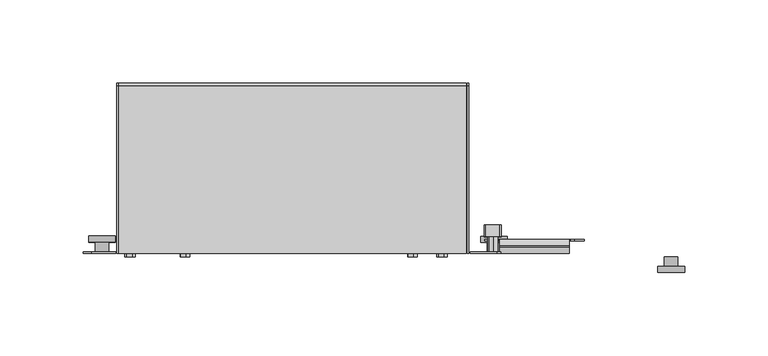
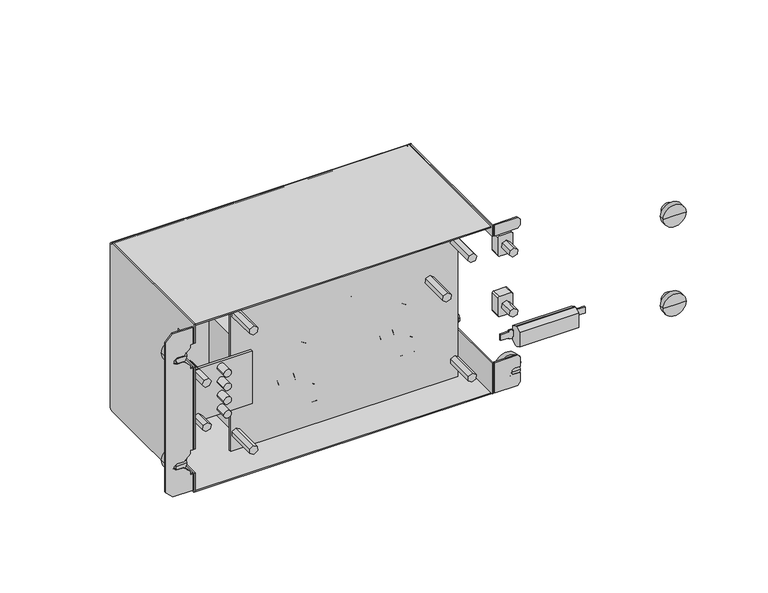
"""IFC4 building model written with IfcOpenShell, lengths in millimetres: proxy geometry, AES 48V 3A F3U : AES 48V 3A F3U."""

from ifc_helpers import new_model, si_unit, point, frame, frame_2d, origin, place, context, project, spatial, polyline, circle_curve, ellipse_curve, trimmed, segment, composite_curve, outline, extrude, source, transform, mapped, element, save
from ifc_brep_helpers import plane_surface, cylinder_surface, revolved_surface, advanced_brep


def electrical_equipment_b192b03c(model_context):
    return source(origin(), model_context, "Body", "SolidModel", [
        extrude(outline(composite_curve([segment(trimmed(circle_curve(frame_2d((-19.9503152, -251.0972025)), 2.4913007), [point((-19.9503152, -248.6059018))], [point((-19.9503152, -253.5885032))], False, "CARTESIAN"), True, "CONTINUOUS"), segment(trimmed(circle_curve(frame_2d((-19.9503152, -251.0972025)), 2.4913007), [point((-19.9503152, -253.5885032))], [point((-19.9503152, -248.6059018))], False, "CARTESIAN"), True, "CONTINUOUS")], self_intersect=False)), frame((0.0, 23.6, 0.0), z_axis=(0.0, 1.0, 0.0), x_axis=(0.0, 0.0, 1.0)), (0.0, 0.0, 1.0), 3.976673),
        extrude(outline(composite_curve([segment(trimmed(circle_curve(frame_2d((15.2361824, -367.226074)), 2.6472279), [point((15.2361824, -369.873302))], [point((15.2361824, -364.5788461))], False, "CARTESIAN"), True, "CONTINUOUS"), segment(trimmed(circle_curve(frame_2d((15.2361824, -367.226074)), 2.6472279), [point((15.2361824, -364.5788461))], [point((15.2361824, -369.873302))], False, "CARTESIAN"), True, "CONTINUOUS")], self_intersect=False)), frame((0.0, 4.0940381, 0.0), z_axis=(0.0, 1.0, 0.0), x_axis=(0.0, 0.0, 1.0)), (0.0, 0.0, 1.0), 7.9059619),
        extrude(outline(composite_curve([segment(trimmed(circle_curve(frame_2d((5.0408699, -367.226074)), 2.6472279), [point((5.0408699, -369.873302))], [point((5.0408699, -364.5788461))], False, "CARTESIAN"), True, "CONTINUOUS"), segment(trimmed(circle_curve(frame_2d((5.0408699, -367.226074)), 2.6472279), [point((5.0408699, -364.5788461))], [point((5.0408699, -369.873302))], False, "CARTESIAN"), True, "CONTINUOUS")], self_intersect=False)), frame((0.0, 4.0940381, 0.0), z_axis=(0.0, 1.0, 0.0), x_axis=(0.0, 0.0, 1.0)), (0.0, 0.0, 1.0), 7.9059619),
        extrude(outline(composite_curve([segment(trimmed(circle_curve(frame_2d((-5.1544426, -367.226074)), 2.6472279), [point((-5.1544426, -369.873302))], [point((-5.1544426, -364.5788461))], False, "CARTESIAN"), True, "CONTINUOUS"), segment(trimmed(circle_curve(frame_2d((-5.1544426, -367.226074)), 2.6472279), [point((-5.1544426, -364.5788461))], [point((-5.1544426, -369.873302))], False, "CARTESIAN"), True, "CONTINUOUS")], self_intersect=False)), frame((0.0, 4.0940381, 0.0), z_axis=(0.0, 1.0, 0.0), x_axis=(0.0, 0.0, 1.0)), (0.0, 0.0, 1.0), 7.9059619),
        extrude(outline(composite_curve([segment(trimmed(circle_curve(frame_2d((-15.3106926, -367.226074)), 2.6472279), [point((-15.3106926, -369.873302))], [point((-15.3106926, -364.5788461))], False, "CARTESIAN"), True, "CONTINUOUS"), segment(trimmed(circle_curve(frame_2d((-15.3106926, -367.226074)), 2.6472279), [point((-15.3106926, -364.5788461))], [point((-15.3106926, -369.873302))], False, "CARTESIAN"), True, "CONTINUOUS")], self_intersect=False)), frame((0.0, 4.0940381, 0.0), z_axis=(0.0, 1.0, 0.0), x_axis=(0.0, 0.0, 1.0)), (0.0, 0.0, 1.0), 7.9059619),
        extrude(outline(polyline([(-387.9580699, 13.6), (-345.4130699, 13.6), (-345.4130699, 12.0), (-387.9580699, 12.0), (-387.9580699, 13.6)])), frame((0.0, 0.0, -19.5226), z_axis=(0.0, 0.0, 1.0), x_axis=(1.0, 0.0, 0.0)), (0.0, 0.0, 1.0), 39.0144),
        advanced_brep(
        [(-286.5728115, 40.5525532, -38.5735618), (-286.5728115, 55.6176132, -38.5735618), (-294.7895031, 55.6176132, -38.5735618), (-294.7895031, 40.5525532, -38.5735618), (-286.5728115, 29.1852447, -38.5735618), (-286.5728115, 66.9849217, -38.5735618), (-294.7895031, 29.1852447, -38.5735618), (-294.7895031, 66.9849217, -38.5735618)],
        [
            (0, 1, circle_curve(frame((-286.5728115, 48.0850832, -38.5735618), z_axis=(1.0, 0.0, 0.0), x_axis=(0.0, 1.0, 0.0)), 7.53253)),
            (1, 2),
            (2, 3, circle_curve(frame((-294.7895031, 48.0850832, -38.5735618), z_axis=(-1.0, 0.0, 0.0), x_axis=(0.0, 1.0, 0.0)), 7.53253)),
            (3, 0),
            (1, 0, circle_curve(frame((-286.5728115, 48.0850832, -38.5735618), z_axis=(1.0, 0.0, 0.0), x_axis=(0.0, 1.0, 0.0)), 7.53253)),
            (3, 2, circle_curve(frame((-294.7895031, 48.0850832, -38.5735618), z_axis=(-1.0, 0.0, 0.0), x_axis=(0.0, 1.0, 0.0)), 7.53253)),
            (4, 5, circle_curve(frame((-286.5728115, 48.0850832, -38.5735618), z_axis=(1.0, 0.0, 0.0), x_axis=(0.0, 1.0, 0.0)), 18.8998385)),
            (5, 1, circle_curve(frame((-286.5728115, 61.3012674, -38.5735618), z_axis=(0.0, 0.0, -1.0), x_axis=(1.0, 0.0, 0.0)), 5.6836542)),
            (0, 4, circle_curve(frame((-286.5728115, 34.868899, -38.5735618), z_axis=(0.0, 0.0, -1.0), x_axis=(1.0, 0.0, 0.0)), 5.6836542)),
            (5, 4, circle_curve(frame((-286.5728115, 48.0850832, -38.5735618), z_axis=(1.0, 0.0, 0.0), x_axis=(0.0, 1.0, 0.0)), 18.8998385)),
            (6, 7, circle_curve(frame((-294.7895031, 48.0850832, -38.5735618), z_axis=(1.0, 0.0, 0.0), x_axis=(0.0, 1.0, 0.0)), 18.8998385)),
            (7, 5),
            (4, 6),
            (7, 6, circle_curve(frame((-294.7895031, 48.0850832, -38.5735618), z_axis=(1.0, 0.0, 0.0), x_axis=(0.0, 1.0, 0.0)), 18.8998385)),
            (2, 7, circle_curve(frame((-294.7895031, 61.3012674, -38.5735618), z_axis=(0.0, 0.0, -1.0), x_axis=(-1.0, 0.0, 0.0)), 5.6836542)),
            (6, 3, circle_curve(frame((-294.7895031, 34.868899, -38.5735618), z_axis=(0.0, 0.0, -1.0), x_axis=(-1.0, 0.0, 0.0)), 5.6836542)),
        ],
        [
            revolved_surface(polyline([(-294.7895031, 55.6176132, -38.5735618), (-286.5728115, 55.6176132, -38.5735618)]), (-290.6811573, 48.0850832, -38.5735618), (-1.0, 0.0, 0.0)),
            revolved_surface(trimmed(ellipse_curve(frame((-286.5728115, 61.3012674, -38.5735618), z_axis=(0.0, 0.0, 1.0), x_axis=(1.0, 0.0, 0.0)), 5.6836542, 5.6836542), [point((-286.5728115, 55.6176132, -38.5735618))], [point((-286.5728115, 66.9849217, -38.5735618))], True, "CARTESIAN"), (-290.6811573, 48.0850832, -38.5735618), (-1.0, 0.0, 0.0)),
            cylinder_surface(frame((-290.6811573, 48.0850832, -38.5735618), z_axis=(-1.0, 0.0, 0.0), x_axis=(0.0, 1.0, 0.0)), 18.8998385),
            revolved_surface(trimmed(ellipse_curve(frame((-294.7895031, 61.3012674, -38.5735618), z_axis=(0.0, 0.0, 1.0), x_axis=(-1.0, 0.0, 0.0)), 5.6836542, 5.6836542), [point((-294.7895031, 66.9849217, -38.5735618))], [point((-294.7895031, 55.6176132, -38.5735618))], True, "CARTESIAN"), (-290.6811573, 48.0850832, -38.5735618), (-1.0, 0.0, 0.0)),
        ],
        [
            (0, [[1, 2, 3, 4]]),
            (0, [[5, -4, 6, -2]]),
            (1, [[7, 8, -1, 9]]),
            (1, [[10, -9, -5, -8]]),
            (2, [[11, 12, -7, 13]]),
            (2, [[14, -13, -10, -12]]),
            (3, [[-3, 15, -11, 16]]),
            (3, [[-6, -16, -14, -15]]),
        ],
    ),
        advanced_brep(
        [(-219.3162322, 37.5428171, -26.4603478), (-219.3162322, 48.5863632, -26.4603478), (-227.5329238, 48.5863632, -26.4603478), (-227.5329238, 37.5428171, -26.4603478), (-219.3162322, 27.5817587, -26.4603478), (-219.3162322, 58.5474217, -26.4603478), (-227.5329238, 27.5817587, -26.4603478), (-227.5329238, 58.5474217, -26.4603478)],
        [
            (0, 1, circle_curve(frame((-219.3162322, 43.0645902, -26.4603478), z_axis=(1.0, 0.0, 0.0), x_axis=(0.0, 1.0, 0.0)), 5.521773)),
            (1, 2),
            (2, 3, circle_curve(frame((-227.5329238, 43.0645902, -26.4603478), z_axis=(-1.0, 0.0, 0.0), x_axis=(0.0, 1.0, 0.0)), 5.521773)),
            (3, 0),
            (1, 0, circle_curve(frame((-219.3162322, 43.0645902, -26.4603478), z_axis=(1.0, 0.0, 0.0), x_axis=(0.0, 1.0, 0.0)), 5.521773)),
            (3, 2, circle_curve(frame((-227.5329238, 43.0645902, -26.4603478), z_axis=(-1.0, 0.0, 0.0), x_axis=(0.0, 1.0, 0.0)), 5.521773)),
            (4, 5, circle_curve(frame((-219.3162322, 43.0645902, -26.4603478), z_axis=(1.0, 0.0, 0.0), x_axis=(0.0, 1.0, 0.0)), 15.4828315)),
            (5, 1, circle_curve(frame((-219.3162322, 53.5668924, -26.4603478), z_axis=(0.0, 0.0, -1.0), x_axis=(1.0, 0.0, 0.0)), 4.9805292)),
            (0, 4, circle_curve(frame((-219.3162322, 32.5622879, -26.4603478), z_axis=(0.0, 0.0, -1.0), x_axis=(1.0, 0.0, 0.0)), 4.9805292)),
            (5, 4, circle_curve(frame((-219.3162322, 43.0645902, -26.4603478), z_axis=(1.0, 0.0, 0.0), x_axis=(0.0, 1.0, 0.0)), 15.4828315)),
            (6, 7, circle_curve(frame((-227.5329238, 43.0645902, -26.4603478), z_axis=(1.0, 0.0, 0.0), x_axis=(0.0, 1.0, 0.0)), 15.4828315)),
            (7, 5),
            (4, 6),
            (7, 6, circle_curve(frame((-227.5329238, 43.0645902, -26.4603478), z_axis=(1.0, 0.0, 0.0), x_axis=(0.0, 1.0, 0.0)), 15.4828315)),
            (2, 7, circle_curve(frame((-227.5329238, 53.5668924, -26.4603478), z_axis=(0.0, 0.0, -1.0), x_axis=(-1.0, 0.0, 0.0)), 4.9805292)),
            (6, 3, circle_curve(frame((-227.5329238, 32.5622879, -26.4603478), z_axis=(0.0, 0.0, -1.0), x_axis=(-1.0, 0.0, 0.0)), 4.9805292)),
        ],
        [
            revolved_surface(polyline([(-227.5329238, 48.586363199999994, -26.4603478), (-219.3162322, 48.586363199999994, -26.4603478)]), (-223.424578, 43.0645902, -26.4603478), (-1.0, 0.0, 0.0)),
            revolved_surface(trimmed(ellipse_curve(frame((-219.3162322, 53.5668924, -26.4603478), z_axis=(0.0, 0.0, 1.0), x_axis=(1.0, 0.0, 0.0)), 4.9805292, 4.9805292), [point((-219.3162322, 48.5863632, -26.4603478))], [point((-219.3162322, 58.5474217, -26.4603478))], True, "CARTESIAN"), (-223.424578, 43.0645902, -26.4603478), (-1.0, 0.0, 0.0)),
            cylinder_surface(frame((-223.424578, 43.0645902, -26.4603478), z_axis=(-1.0, 0.0, 0.0), x_axis=(0.0, 1.0, 0.0)), 15.4828315),
            revolved_surface(trimmed(ellipse_curve(frame((-227.5329238, 53.5668924, -26.4603478), z_axis=(0.0, 0.0, 1.0), x_axis=(-1.0, 0.0, 0.0)), 4.9805292, 4.9805292), [point((-227.5329238, 58.5474217, -26.4603478))], [point((-227.5329238, 48.5863632, -26.4603478))], True, "CARTESIAN"), (-223.424578, 43.0645902, -26.4603478), (-1.0, 0.0, 0.0)),
        ],
        [
            (0, [[1, 2, 3, 4]]),
            (0, [[5, -4, 6, -2]]),
            (1, [[7, 8, -1, 9]]),
            (1, [[10, -9, -5, -8]]),
            (2, [[11, 12, -7, 13]]),
            (2, [[14, -13, -10, -12]]),
            (3, [[-3, 15, -11, 16]]),
            (3, [[-6, -16, -14, -15]]),
        ],
    ),
        extrude(outline(polyline([(-348.0900699, 58.5), (-317.9260699, 58.5), (-317.9260699, 49.5), (-348.0900699, 49.5), (-348.0900699, 58.5)])), frame((0.0, 0.0, -15.6866), z_axis=(0.0, 0.0, 1.0), x_axis=(1.0, 0.0, 0.0)), (0.0, 0.0, 1.0), 36.895),
        extrude(outline(polyline([(-29.5098, -303.2646699), (-29.5098, -313.7294699), (-40.762, -313.7294699), (-40.762, -334.7098699), (-29.5098, -334.7098699), (-29.5098, -345.1746699), (-55.113, -345.1746699), (-55.113, -332.2206699), (-43.7592, -332.2206699), (-43.7592, -316.2186699), (-55.113, -316.2186699), (-55.113, -303.2646699), (-29.5098, -303.2646699)])), frame((0.0, 23.6, 0.0), z_axis=(0.0, 1.0, 0.0), x_axis=(0.0, 0.0, 1.0)), (0.0, 0.0, 1.0), 38.5),
        extrude(outline(polyline([(-235.3958699, 37.6), (-211.3928699, 37.6), (-211.3928699, 23.6), (-235.3958699, 23.6), (-235.3958699, 37.6)])), frame((0.0, 0.0, -43.2766), z_axis=(0.0, 0.0, 1.0), x_axis=(1.0, 0.0, 0.0)), (0.0, 0.0, 1.0), 33.5026),
        extrude(outline(polyline([(-302.6804699, 34.6), (-278.6774699, 34.6), (-278.6774699, 23.6), (-302.6804699, 23.6), (-302.6804699, 34.6)])), frame((0.0, 0.0, -53.335), z_axis=(0.0, 0.0, 1.0), x_axis=(1.0, 0.0, 0.0)), (0.0, 0.0, 1.0), 29.9974),
        extrude(outline(polyline([(-354.0900699, 49.5), (-311.9260699, 49.5), (-311.9260699, 23.6), (-354.0900699, 23.6), (-354.0900699, 49.5)])), frame((0.0, 0.0, -21.6866), z_axis=(0.0, 0.0, 1.0), x_axis=(1.0, 0.0, 0.0)), (0.0, 0.0, 1.0), 48.895),
        extrude(outline(polyline([(-343.3712699, 62.5), (-314.2628699, 62.5), (-314.2628699, 23.6), (-343.3712699, 23.6), (-343.3712699, 62.5)])), frame((0.0, 0.0, 37.0916544), z_axis=(0.0, 0.0, 1.0), x_axis=(1.0, 0.0, 0.0)), (0.0, 0.0, 1.0), 12.0115456),
        extrude(outline(polyline([(23.6, 51.1098), (39.6, 51.1098), (44.6, 46.1098), (44.6, 27.31), (23.6, 27.31), (23.6, 51.1098)])), frame((-268.1110699, 0.0, 0.0), z_axis=(1.0, 0.0, 0.0), x_axis=(0.0, 1.0, 0.0)), (0.0, 0.0, 1.0), 3.9116),
        extrude(outline(polyline([(54.4, 44.329), (54.4, 33.1256), (46.4, 25.1256), (23.6, 25.1256), (23.6, 52.329), (46.4, 52.329), (54.4, 44.329)])), frame((-246.8766699, 0.0, 0.0), z_axis=(1.0, 0.0, 0.0), x_axis=(0.0, 1.0, 0.0)), (0.0, 0.0, 1.0), 18.2372),
        extrude(outline(composite_curve([segment(trimmed(circle_curve(frame_2d((-41.0414, -270.8002005)), 3.6322), [point((-37.4092, -270.8002005))], [point((-41.0414, -274.4324005))], False, "CARTESIAN"), True, "CONTINUOUS"), segment(polyline([(-41.0414, -274.4324005), (-45.6896, -274.4324005)]), True, "CONTINUOUS"), segment(trimmed(circle_curve(frame_2d((-45.6896, -270.9018005)), 3.5306), [point((-45.6896, -274.4324005))], [point((-49.2202, -270.9018005))], False, "CARTESIAN"), True, "CONTINUOUS"), segment(polyline([(-49.2202, -270.9018005), (-49.2202, -245.4002005), (-37.4092, -245.4002005), (-37.4092, -270.8002005)]), True, "CONTINUOUS")], self_intersect=False)), frame((0.0, 23.6, 0.0), z_axis=(0.0, 1.0, 0.0), x_axis=(0.0, 0.0, 1.0)), (0.0, 0.0, 1.0), 18.9),
        extrude(outline(composite_curve([segment(trimmed(circle_curve(frame_2d((-29.0046588, -270.8002005)), 3.6322), [point((-25.3724588, -270.8002005))], [point((-29.0046588, -274.4324005))], False, "CARTESIAN"), True, "CONTINUOUS"), segment(polyline([(-29.0046588, -274.4324005), (-33.6528588, -274.4324005)]), True, "CONTINUOUS"), segment(trimmed(circle_curve(frame_2d((-33.6528588, -270.9018005)), 3.5306), [point((-33.6528588, -274.4324005))], [point((-37.1834588, -270.9018005))], False, "CARTESIAN"), True, "CONTINUOUS"), segment(polyline([(-37.1834588, -270.9018005), (-37.1834588, -245.4002005), (-25.3724588, -245.4002005), (-25.3724588, -270.8002005)]), True, "CONTINUOUS")], self_intersect=False)), frame((0.0, 23.6, 0.0), z_axis=(0.0, 1.0, 0.0), x_axis=(0.0, 0.0, 1.0)), (0.0, 0.0, 1.0), 18.9),
        extrude(outline(composite_curve([segment(trimmed(circle_curve(frame_2d((-3.1504009, -216.6525781)), 3.1983878), [point((-3.1504009, -213.4541904))], [point((-3.1504009, -219.8509659))], False, "CARTESIAN"), True, "CONTINUOUS"), segment(trimmed(circle_curve(frame_2d((-3.1504009, -216.6525781)), 3.1983878), [point((-3.1504009, -219.8509659))], [point((-3.1504009, -213.4541904))], False, "CARTESIAN"), True, "CONTINUOUS")], self_intersect=False)), frame((0.0, 23.6, 0.0), z_axis=(0.0, 1.0, 0.0), x_axis=(0.0, 0.0, 1.0)), (0.0, 0.0, 1.0), 11.7),
        extrude(outline(composite_curve([segment(trimmed(circle_curve(frame_2d((-21.7063691, -242.941268)), 3.1562627), [point((-21.7063691, -239.7850053))], [point((-21.7063691, -246.0975307))], False, "CARTESIAN"), True, "CONTINUOUS"), segment(trimmed(circle_curve(frame_2d((-21.7063691, -242.941268)), 3.1562627), [point((-21.7063691, -246.0975307))], [point((-21.7063691, -239.7850053))], False, "CARTESIAN"), True, "CONTINUOUS")], self_intersect=False)), frame((0.0, 23.6, 0.0), z_axis=(0.0, 1.0, 0.0), x_axis=(0.0, 0.0, 1.0)), (0.0, 0.0, 1.0), 11.7),
        extrude(outline(composite_curve([segment(trimmed(circle_curve(frame_2d((-9.6571793, -268.9789738)), 3.1259884), [point((-9.6571793, -265.8529854))], [point((-9.6571793, -272.1049622))], False, "CARTESIAN"), True, "CONTINUOUS"), segment(trimmed(circle_curve(frame_2d((-9.6571793, -268.9789738)), 3.1259884), [point((-9.6571793, -272.1049622))], [point((-9.6571793, -265.8529854))], False, "CARTESIAN"), True, "CONTINUOUS")], self_intersect=False)), frame((0.0, 23.6, 0.0), z_axis=(0.0, 1.0, 0.0), x_axis=(0.0, 0.0, 1.0)), (0.0, 0.0, 1.0), 11.7),
        extrude(outline(composite_curve([segment(trimmed(circle_curve(frame_2d((-12.1820995, -302.6303746)), 3.1550986), [point((-12.1820995, -299.475276))], [point((-12.1820995, -305.7854732))], False, "CARTESIAN"), True, "CONTINUOUS"), segment(trimmed(circle_curve(frame_2d((-12.1820995, -302.6303746)), 3.1550986), [point((-12.1820995, -305.7854732))], [point((-12.1820995, -299.475276))], False, "CARTESIAN"), True, "CONTINUOUS")], self_intersect=False)), frame((0.0, 23.6, 0.0), z_axis=(0.0, 1.0, 0.0), x_axis=(0.0, 0.0, 1.0)), (0.0, 0.0, 1.0), 11.7),
        extrude(outline(composite_curve([segment(trimmed(circle_curve(frame_2d((-4.6353389, -282.4836555)), 8.1638149), [point((-4.6353389, -274.3198406))], [point((-4.6353389, -290.6474704))], False, "CARTESIAN"), True, "CONTINUOUS"), segment(trimmed(circle_curve(frame_2d((-4.6353389, -282.4836555)), 8.1638149), [point((-4.6353389, -290.6474704))], [point((-4.6353389, -274.3198406))], False, "CARTESIAN"), True, "CONTINUOUS")], self_intersect=False)), frame((0.0, 23.6, 0.0), z_axis=(0.0, 1.0, 0.0), x_axis=(0.0, 0.0, 1.0)), (0.0, 0.0, 1.0), 32.6),
        extrude(outline(composite_curve([segment(trimmed(circle_curve(frame_2d((5.0424732, -263.4391498)), 3.1570073), [point((5.0424732, -260.2821425))], [point((5.0424732, -266.5961571))], False, "CARTESIAN"), True, "CONTINUOUS"), segment(trimmed(circle_curve(frame_2d((5.0424732, -263.4391498)), 3.1570073), [point((5.0424732, -266.5961571))], [point((5.0424732, -260.2821425))], False, "CARTESIAN"), True, "CONTINUOUS")], self_intersect=False)), frame((0.0, 23.6, 0.0), z_axis=(0.0, 1.0, 0.0), x_axis=(0.0, 0.0, 1.0)), (0.0, 0.0, 1.0), 11.7),
        extrude(outline(composite_curve([segment(trimmed(circle_curve(frame_2d((22.5451751, -272.2817061)), 5.0994288), [point((22.5451751, -267.1822773))], [point((22.5451751, -277.3811349))], False, "CARTESIAN"), True, "CONTINUOUS"), segment(trimmed(circle_curve(frame_2d((22.5451751, -272.2817061)), 5.0994288), [point((22.5451751, -277.3811349))], [point((22.5451751, -267.1822773))], False, "CARTESIAN"), True, "CONTINUOUS")], self_intersect=False)), frame((0.0, 23.6, 0.0), z_axis=(0.0, 1.0, 0.0), x_axis=(0.0, 0.0, 1.0)), (0.0, 0.0, 1.0), 20.5),
        extrude(outline(composite_curve([segment(trimmed(circle_curve(frame_2d((37.9301562, -286.0044764)), 15.0), [point((37.9301562, -271.0044764))], [point((37.9301562, -301.0044764))], False, "CARTESIAN"), True, "CONTINUOUS"), segment(trimmed(circle_curve(frame_2d((37.9301562, -286.0044764)), 15.0), [point((37.9301562, -301.0044764))], [point((37.9301562, -271.0044764))], False, "CARTESIAN"), True, "CONTINUOUS")], self_intersect=False)), frame((0.0, 23.6, 0.0), z_axis=(0.0, 1.0, 0.0), x_axis=(0.0, 0.0, 1.0)), (0.0, 0.0, 1.0), 41.3),
        extrude(outline(polyline([(-228.5886699, 38.6), (-221.5528699, 38.6), (-221.5528699, 23.6), (-228.5886699, 23.6), (-228.5886699, 38.6)])), frame((0.0, 0.0, 27.691), z_axis=(0.0, 0.0, 1.0), x_axis=(1.0, 0.0, 0.0)), (0.0, 0.0, 1.0), 26.035),
        extrude(outline(composite_curve([segment(trimmed(circle_curve(frame_2d((51.313, -213.3740699)), 3.6322), [point((51.313, -209.7418699))], [point((54.9452, -213.3740699))], False, "CARTESIAN"), True, "CONTINUOUS"), segment(polyline([(54.9452, -213.3740699), (54.9452, -218.0222699)]), True, "CONTINUOUS"), segment(trimmed(circle_curve(frame_2d((51.4146, -218.0222699)), 3.5306), [point((54.9452, -218.0222699))], [point((51.4146, -221.5528699))], False, "CARTESIAN"), True, "CONTINUOUS"), segment(polyline([(51.4146, -221.5528699), (25.913, -221.5528699), (25.913, -209.7418699), (51.313, -209.7418699)]), True, "CONTINUOUS")], self_intersect=False)), frame((0.0, 23.6, 0.0), z_axis=(0.0, 1.0, 0.0), x_axis=(0.0, 0.0, 1.0)), (0.0, 0.0, 1.0), 18.9),
        extrude(outline(polyline([(-198.4896699, 23.6), (-209.5894699, 23.6), (-209.5894699, 36.8477198), (-208.6588003, 40.9), (-200.1090895, 40.9), (-198.4896699, 32.7954397), (-198.4896699, 23.6)])), frame((0.0, 0.0, 17.023), z_axis=(0.0, 0.0, 1.0), x_axis=(1.0, 0.0, 0.0)), (0.0, 0.0, 1.0), 22.86),
        extrude(outline(polyline([(-201.9716489, 45.8669698), (-198.3626699, 34.0639317), (-198.3626699, 23.6), (-210.8594699, 23.6), (-210.8594699, 32.7621261), (-209.1558834, 32.7621261), (-209.1558834, 47.4), (-201.9716489, 47.4), (-201.9716489, 45.8669698)])), frame((0.0, 0.0, -41.397), z_axis=(0.0, 0.0, 1.0), x_axis=(1.0, 0.0, 0.0)), (0.0, 0.0, 1.0), 38.1),
        extrude(outline(polyline([(-194.7050699, 22.0), (-354.7250699, 22.0), (-354.7250699, 23.6), (-194.7050699, 23.6), (-194.7050699, 22.0)])), frame((0.0, 0.0, -58.3896), z_axis=(0.0, 0.0, 1.0), x_axis=(1.0, 0.0, 0.0)), (0.0, 0.0, 1.0), 115.7986),
        extrude(outline(composite_curve([segment(polyline([(102.238, -63.5), (2.0, -63.5), (2.0, -49.438), (21.6736316, -49.438), (21.6736316, -31.438), (2.0, -31.438), (2.0, 29.438), (21.6736316, 29.438), (21.6736316, 47.438), (2.0, 47.438), (2.0, 61.5), (102.238, 61.5)]), True, "CONTINUOUS"), segment(trimmed(circle_curve(frame_2d((102.238, 59.738)), 1.762), [point((102.238, 61.5))], [point((104.0, 59.738))], False, "CARTESIAN"), True, "CONTINUOUS"), segment(polyline([(104.0, 59.738), (104.0, -61.738)]), True, "CONTINUOUS"), segment(trimmed(circle_curve(frame_2d((102.238, -61.738)), 1.762), [point((104.0, -61.738))], [point((102.238, -63.5))], False, "CARTESIAN"), True, "CONTINUOUS")], self_intersect=False)), frame((-392.1396699, 0.0, 0.0), z_axis=(1.0, 0.0, 0.0), x_axis=(0.0, 1.0, 0.0)), (0.0, 0.0, 1.0), 1.0),
        extrude(outline(composite_curve([segment(polyline([(102.238, -63.5), (2.0, -63.5), (2.0, -41.1), (53.0, -41.1), (53.0, -36.1), (44.5, -36.1), (43.0, -34.6), (43.0, -32.1), (44.5, -30.6), (53.0, -30.6), (53.0, 53.5), (2.0, 53.5), (2.0, 61.5), (102.238, 61.5)]), True, "CONTINUOUS"), segment(trimmed(circle_curve(frame_2d((102.238, 59.738)), 1.762), [point((102.238, 61.5))], [point((104.0, 59.738))], False, "CARTESIAN"), True, "CONTINUOUS"), segment(polyline([(104.0, 59.738), (104.0, -61.738)]), True, "CONTINUOUS"), segment(trimmed(circle_curve(frame_2d((102.238, -61.738)), 1.762), [point((104.0, -61.738))], [point((102.238, -63.5))], False, "CARTESIAN"), True, "CONTINUOUS")], self_intersect=False)), frame((-182.1396699, 0.0, 0.0), z_axis=(1.0, 0.0, 0.0), x_axis=(0.0, 1.0, 0.0)), (0.0, 0.0, 1.0), 1.0),
        extrude(outline(composite_curve([segment(polyline([(102.238, 60.5), (2.0, 60.5), (2.0, 61.5), (102.238, 61.5)]), True, "CONTINUOUS"), segment(trimmed(circle_curve(frame_2d((102.238, 59.738)), 1.762), [point((102.238, 61.5))], [point((104.0, 59.738))], False, "CARTESIAN"), True, "CONTINUOUS"), segment(polyline([(104.0, 59.738), (104.0, -61.738)]), True, "CONTINUOUS"), segment(trimmed(circle_curve(frame_2d((102.238, -61.738)), 1.762), [point((104.0, -61.738))], [point((102.238, -63.5))], False, "CARTESIAN"), True, "CONTINUOUS"), segment(polyline([(102.238, -63.5), (2.0, -63.5), (2.0, -62.5), (102.238, -62.5)]), True, "CONTINUOUS"), segment(trimmed(circle_curve(frame_2d((102.238, -61.738)), 0.762), [point((102.238, -62.5))], [point((103.0, -61.738))], True, "CARTESIAN"), True, "CONTINUOUS"), segment(polyline([(103.0, -61.738), (103.0, 59.738)]), True, "CONTINUOUS"), segment(trimmed(circle_curve(frame_2d((102.238, 59.738)), 0.762), [point((103.0, 59.738))], [point((102.238, 60.5))], True, "CARTESIAN"), True, "CONTINUOUS")], self_intersect=False)), frame((-392.1396699, 0.0, 0.0), z_axis=(1.0, 0.0, 0.0), x_axis=(0.0, 1.0, 0.0)), (0.0, 0.0, 1.0), 209.238),
        extrude(outline(polyline([(-182.9016699, 2.0), (-392.1396699, 2.0), (-392.1396699, 102.238), (-182.9016699, 102.238), (-182.9016699, 2.0)])), frame((0.0, 0.0, 60.5), z_axis=(0.0, 0.0, 1.0), x_axis=(1.0, 0.0, 0.0)), (0.0, 0.0, 1.0), 1.0),
        extrude(outline(composite_curve([segment(polyline([(-63.5, -180.3776699), (-63.5, -164.1396699), (-61.5, -162.1396699), (-54.55, -162.1396699), (-54.55, -166.1396699)]), True, "CONTINUOUS"), segment(trimmed(circle_curve(frame_2d((-52.3, -166.1396699)), 2.25), [point((-54.55, -166.1396699))], [point((-50.05, -166.1396699))], True, "CARTESIAN"), True, "CONTINUOUS"), segment(polyline([(-50.05, -166.1396699), (-50.05, -162.1396699), (-43.1, -162.1396699), (-41.1, -164.1396699), (-41.1, -180.3776699), (-63.5, -180.3776699)]), True, "CONTINUOUS")], self_intersect=False)), frame((0.0, 2.0, 0.0), z_axis=(0.0, 1.0, 0.0), x_axis=(0.0, 0.0, 1.0)), (0.0, 0.0, 1.0), 1.0),
        extrude(outline(polyline([(53.5, -180.3776699), (53.5, -164.1396699), (55.5, -162.1396699), (59.5, -162.1396699), (61.5, -164.1396699), (61.5, -180.3776699), (53.5, -180.3776699)])), frame((0.0, 2.0, 0.0), z_axis=(0.0, 1.0, 0.0), x_axis=(0.0, 0.0, 1.0)), (0.0, 0.0, 1.0), 1.0),
        extrude(outline(composite_curve([segment(polyline([(-61.738, -392.9016699), (-49.438, -392.9016699), (-49.438, -394.9016699), (-46.938, -394.9016699), (-42.688, -399.1516699), (-42.688, -404.1396699)]), True, "CONTINUOUS"), segment(trimmed(circle_curve(frame_2d((-40.438, -404.1396699)), 2.25), [point((-42.688, -404.1396699))], [point((-38.188, -404.1396699))], True, "CARTESIAN"), True, "CONTINUOUS"), segment(polyline([(-38.188, -404.1396699), (-38.188, -399.1516699), (-33.938, -394.9016699), (-31.438, -394.9016699), (-31.438, -392.9016699), (29.438, -392.9016699), (29.438, -394.9016699), (31.938, -394.9016699), (36.188, -399.1516699), (36.188, -404.1396699)]), True, "CONTINUOUS"), segment(trimmed(circle_curve(frame_2d((38.438, -404.1396699)), 2.25), [point((36.188, -404.1396699))], [point((40.688, -404.1396699))], True, "CARTESIAN"), True, "CONTINUOUS"), segment(polyline([(40.688, -404.1396699), (40.688, -399.1516699), (44.938, -394.9016699), (47.438, -394.9016699), (47.438, -392.9016699), (59.738, -392.9016699), (59.738, -407.1396699), (54.738, -412.1396699), (-56.738, -412.1396699), (-61.738, -407.1396699), (-61.738, -392.9016699)]), True, "CONTINUOUS")], self_intersect=False)), frame((0.0, 2.0, 0.0), z_axis=(0.0, 1.0, 0.0), x_axis=(0.0, 0.0, 1.0)), (0.0, 0.0, 1.0), 1.0),
        extrude(outline(composite_curve([segment(polyline([(44.0, -162.8496699), (44.0, -171.0496699)]), True, "CONTINUOUS"), segment(trimmed(circle_curve(frame_2d((43.0, -171.0496699)), 1.0), [point((44.0, -171.0496699))], [point((43.0, -172.0496699))], False, "CARTESIAN"), True, "CONTINUOUS"), segment(polyline([(43.0, -172.0496699), (30.0, -172.0496699)]), True, "CONTINUOUS"), segment(trimmed(circle_curve(frame_2d((30.0, -171.0496699)), 1.0), [point((30.0, -172.0496699))], [point((29.0, -171.0496699))], False, "CARTESIAN"), True, "CONTINUOUS"), segment(polyline([(29.0, -171.0496699), (29.0, -162.8496699)]), True, "CONTINUOUS"), segment(trimmed(circle_curve(frame_2d((30.0, -162.8496699)), 1.0), [point((29.0, -162.8496699))], [point((30.0, -161.8496699))], False, "CARTESIAN"), True, "CONTINUOUS"), segment(polyline([(30.0, -161.8496699), (43.0, -161.8496699)]), True, "CONTINUOUS"), segment(trimmed(circle_curve(frame_2d((43.0, -162.8496699)), 1.0), [point((43.0, -161.8496699))], [point((44.0, -162.8496699))], False, "CARTESIAN"), True, "CONTINUOUS")], self_intersect=False)), frame((0.0, 12.0, 0.0), z_axis=(0.0, 1.0, 0.0), x_axis=(0.0, 0.0, 1.0)), (0.0, 0.0, 1.0), 7.0),
        extrude(outline(composite_curve([segment(polyline([(-1.0, -162.8496699), (-1.0, -171.0496699)]), True, "CONTINUOUS"), segment(trimmed(circle_curve(frame_2d((-2.0, -171.0496699)), 1.0), [point((-1.0, -171.0496699))], [point((-2.0, -172.0496699))], False, "CARTESIAN"), True, "CONTINUOUS"), segment(polyline([(-2.0, -172.0496699), (-15.0, -172.0496699)]), True, "CONTINUOUS"), segment(trimmed(circle_curve(frame_2d((-15.0, -171.0496699)), 1.0), [point((-15.0, -172.0496699))], [point((-16.0, -171.0496699))], False, "CARTESIAN"), True, "CONTINUOUS"), segment(polyline([(-16.0, -171.0496699), (-16.0, -162.8496699)]), True, "CONTINUOUS"), segment(trimmed(circle_curve(frame_2d((-15.0, -162.8496699)), 1.0), [point((-16.0, -162.8496699))], [point((-15.0, -161.8496699))], False, "CARTESIAN"), True, "CONTINUOUS"), segment(polyline([(-15.0, -161.8496699), (-2.0, -161.8496699)]), True, "CONTINUOUS"), segment(trimmed(circle_curve(frame_2d((-2.0, -162.8496699)), 1.0), [point((-2.0, -161.8496699))], [point((-1.0, -162.8496699))], False, "CARTESIAN"), True, "CONTINUOUS")], self_intersect=False)), frame((0.0, 12.0, 0.0), z_axis=(0.0, 1.0, 0.0), x_axis=(0.0, 0.0, 1.0)), (0.0, 0.0, 1.0), 7.0),
        extrude(outline(polyline([(39.6265096, -166.394448), (38.544091, -169.3796957), (35.4175815, -169.9349176), (33.3734904, -167.5048918), (34.455909, -164.5196442), (37.5824185, -163.9644223), (39.6265096, -166.394448)])), frame((0.0, 2.0, 0.0), z_axis=(0.0, 1.0, 0.0), x_axis=(0.0, 0.0, 1.0)), (0.0, 0.0, 1.0), 10.0),
        extrude(outline(polyline([(-5.3734904, -166.394448), (-6.455909, -169.3796957), (-9.5824185, -169.9349176), (-11.6265096, -167.5048918), (-10.544091, -164.5196442), (-7.4175815, -163.9644223), (-5.3734904, -166.394448)])), frame((0.0, 2.0, 0.0), z_axis=(0.0, 1.0, 0.0), x_axis=(0.0, 0.0, 1.0)), (0.0, 0.0, 1.0), 10.0),
        extrude(outline(polyline([(-27.8, -118.1996699), (-26.8, -118.1996699), (-26.8, -120.1996699), (-27.8, -120.1996699), (-27.8, -123.4996699), (-26.8, -123.4996699), (-26.8, -131.8996699), (-33.2, -131.8996699), (-33.2, -123.4996699), (-32.2, -123.4996699), (-32.2, -120.1996699), (-33.2, -120.1996699), (-33.2, -118.1996699), (-32.2, -118.1996699), (-32.2, -112.1996699), (-27.8, -112.1996699), (-27.8, -118.1996699)])), frame((0.0, 9.5, 0.0), z_axis=(0.0, 1.0, 0.0), x_axis=(0.0, 0.0, 1.0)), (0.0, 0.0, 1.0), 1.0),
        extrude(outline(polyline([(-27.8, -165.6996699), (-27.8, -171.6996699), (-32.2, -171.6996699), (-32.2, -165.6996699), (-33.2, -165.6996699), (-33.2, -163.6996699), (-32.2, -163.6996699), (-32.2, -160.3996699), (-33.2, -160.3996699), (-33.2, -151.9996699), (-26.8, -151.9996699), (-26.8, -160.3996699), (-27.8, -160.3996699), (-27.8, -163.6996699), (-26.8, -163.6996699), (-26.8, -165.6996699), (-27.8, -165.6996699)])), frame((0.0, 9.5, 0.0), z_axis=(0.0, 1.0, 0.0), x_axis=(0.0, 0.0, 1.0)), (0.0, 0.0, 1.0), 1.0),
        extrude(outline(polyline([(10.5, -24.6), (10.5, -35.4), (6.75, -37.4), (5.75, -37.4), (2.0, -35.4), (2.0, -24.6), (5.75, -22.6), (6.75, -22.6), (10.5, -24.6)])), frame((-162.6996699, 0.0, 0.0), z_axis=(1.0, 0.0, 0.0), x_axis=(0.0, 1.0, 0.0)), (0.0, 0.0, 1.0), 41.5),
        advanced_brep(
        [(-170.1368414, 8.7, -52.3658573), (-162.142454, 8.7, -52.3658573), (-162.142454, 2.0, -52.3658573), (-170.1368414, 2.0, -52.3658573), (-166.1396477, 2.0, -52.3658573), (-166.1396477, 12.3, -52.3658573), (-158.1027622, 12.3, -52.3658573), (-174.1765332, 12.3, -52.3658573), (-158.1027622, 8.7, -52.3658573), (-174.1765332, 8.7, -52.3658573)],
        [
            (0, 1, circle_curve(frame((-166.1396477, 8.7, -52.3658573), z_axis=(0.0, -1.0, 0.0), x_axis=(1.0, 0.0, 0.0)), 3.9971937)),
            (1, 2),
            (2, 3, circle_curve(frame((-166.1396477, 2.0, -52.3658573), z_axis=(0.0, 1.0, 0.0), x_axis=(1.0, 0.0, 0.0)), 3.9971937)),
            (3, 0),
            (1, 0, circle_curve(frame((-166.1396477, 8.7, -52.3658573), z_axis=(0.0, -1.0, 0.0), x_axis=(1.0, 0.0, 0.0)), 3.9971937)),
            (3, 2, circle_curve(frame((-166.1396477, 2.0, -52.3658573), z_axis=(0.0, 1.0, 0.0), x_axis=(1.0, 0.0, 0.0)), 3.9971937)),
            (2, 4),
            (4, 3),
            (5, 6),
            (6, 7, circle_curve(frame((-166.1396477, 12.3, -52.3658573), z_axis=(0.0, 1.0, 0.0), x_axis=(1.0, 0.0, 0.0)), 8.0368855)),
            (7, 5),
            (7, 6, circle_curve(frame((-166.1396477, 12.3, -52.3658573), z_axis=(0.0, 1.0, 0.0), x_axis=(1.0, 0.0, 0.0)), 8.0368855)),
            (6, 8),
            (8, 9, circle_curve(frame((-166.1396477, 8.7, -52.3658573), z_axis=(0.0, 1.0, 0.0), x_axis=(1.0, 0.0, 0.0)), 8.0368855)),
            (9, 7),
            (9, 8, circle_curve(frame((-166.1396477, 8.7, -52.3658573), z_axis=(0.0, 1.0, 0.0), x_axis=(1.0, 0.0, 0.0)), 8.0368855)),
            (8, 1),
            (0, 9),
        ],
        [
            cylinder_surface(frame((-166.1396477, 14.3877727, -52.3658573), z_axis=(0.0, 1.0, 0.0), x_axis=(1.0, 0.0, 0.0)), 3.9971937),
            plane_surface(frame((-166.1396477, 2.0, -52.3658573), z_axis=(0.0, -1.0, 0.0), x_axis=(1.0, 0.0, 0.0))),
            plane_surface(frame((-166.1396477, 12.3, -52.3658573), z_axis=(0.0, 1.0, 0.0), x_axis=(1.0, 0.0, 0.0))),
            cylinder_surface(frame((-166.1396477, 14.3877727, -52.3658573), z_axis=(0.0, 1.0, 0.0), x_axis=(1.0, 0.0, 0.0)), 8.0368855),
            plane_surface(frame((-166.1396477, 8.7, -52.3658573), z_axis=(0.0, -1.0, 0.0), x_axis=(1.0, 0.0, 0.0))),
        ],
        [
            (0, [[1, 2, 3, 4]]),
            (0, [[5, -4, 6, -2]]),
            (1, [[-3, 7, 8]]),
            (1, [[-6, -8, -7]]),
            (2, [[9, 10, 11]]),
            (2, [[-11, 12, -9]]),
            (3, [[-10, 13, 14, 15]]),
            (3, [[-12, -15, 16, -13]]),
            (4, [[-14, 17, -1, 18]]),
            (4, [[-16, -18, -5, -17]]),
        ],
    ),
        advanced_brep(
        [(-405.0368636, 8.7, -39.9979478), (-397.0424762, 8.7, -39.9979478), (-397.0424762, 2.0, -39.9979478), (-405.0368636, 2.0, -39.9979478), (-401.0396699, 2.0, -39.9979478), (-401.0396699, 12.3, -39.9979478), (-393.0027844, 12.3, -39.9979478), (-409.0765554, 12.3, -39.9979478), (-393.0027844, 8.7, -39.9979478), (-409.0765554, 8.7, -39.9979478)],
        [
            (0, 1, circle_curve(frame((-401.0396699, 8.7, -39.9979478), z_axis=(0.0, -1.0, 0.0), x_axis=(1.0, 0.0, 0.0)), 3.9971937)),
            (1, 2),
            (2, 3, circle_curve(frame((-401.0396699, 2.0, -39.9979478), z_axis=(0.0, 1.0, 0.0), x_axis=(1.0, 0.0, 0.0)), 3.9971937)),
            (3, 0),
            (1, 0, circle_curve(frame((-401.0396699, 8.7, -39.9979478), z_axis=(0.0, -1.0, 0.0), x_axis=(1.0, 0.0, 0.0)), 3.9971937)),
            (3, 2, circle_curve(frame((-401.0396699, 2.0, -39.9979478), z_axis=(0.0, 1.0, 0.0), x_axis=(1.0, 0.0, 0.0)), 3.9971937)),
            (2, 4),
            (4, 3),
            (5, 6),
            (6, 7, circle_curve(frame((-401.0396699, 12.3, -39.9979478), z_axis=(0.0, 1.0, 0.0), x_axis=(1.0, 0.0, 0.0)), 8.0368855)),
            (7, 5),
            (7, 6, circle_curve(frame((-401.0396699, 12.3, -39.9979478), z_axis=(0.0, 1.0, 0.0), x_axis=(1.0, 0.0, 0.0)), 8.0368855)),
            (6, 8),
            (8, 9, circle_curve(frame((-401.0396699, 8.7, -39.9979478), z_axis=(0.0, 1.0, 0.0), x_axis=(1.0, 0.0, 0.0)), 8.0368855)),
            (9, 7),
            (9, 8, circle_curve(frame((-401.0396699, 8.7, -39.9979478), z_axis=(0.0, 1.0, 0.0), x_axis=(1.0, 0.0, 0.0)), 8.0368855)),
            (8, 1),
            (0, 9),
        ],
        [
            cylinder_surface(frame((-401.0396699, 14.3877727, -39.9979478), z_axis=(0.0, 1.0, 0.0), x_axis=(1.0, 0.0, 0.0)), 3.9971937),
            plane_surface(frame((-401.0396699, 2.0, -39.9979478), z_axis=(0.0, -1.0, 0.0), x_axis=(1.0, 0.0, 0.0))),
            plane_surface(frame((-401.0396699, 12.3, -39.9979478), z_axis=(0.0, 1.0, 0.0), x_axis=(1.0, 0.0, 0.0))),
            cylinder_surface(frame((-401.0396699, 14.3877727, -39.9979478), z_axis=(0.0, 1.0, 0.0), x_axis=(1.0, 0.0, 0.0)), 8.0368855),
            plane_surface(frame((-401.0396699, 8.7, -39.9979478), z_axis=(0.0, -1.0, 0.0), x_axis=(1.0, 0.0, 0.0))),
        ],
        [
            (0, [[1, 2, 3, 4]]),
            (0, [[5, -4, 6, -2]]),
            (1, [[-3, 7, 8]]),
            (1, [[-6, -8, -7]]),
            (2, [[9, 10, 11]]),
            (2, [[-11, 12, -9]]),
            (3, [[-10, 13, 14, 15]]),
            (3, [[-12, -15, 16, -13]]),
            (4, [[-14, 17, -1, 18]]),
            (4, [[-16, -18, -5, -17]]),
        ],
    ),
        advanced_brep(
        [(-405.0368636, 8.7, 40.0020522), (-397.0424762, 8.7, 40.0020522), (-397.0424762, 2.0, 40.0020522), (-405.0368636, 2.0, 40.0020522), (-401.0396699, 2.0, 40.0020522), (-401.0396699, 12.3, 40.0020522), (-393.0027844, 12.3, 40.0020522), (-409.0765554, 12.3, 40.0020522), (-393.0027844, 8.7, 40.0020522), (-409.0765554, 8.7, 40.0020522)],
        [
            (0, 1, circle_curve(frame((-401.0396699, 8.7, 40.0020522), z_axis=(0.0, -1.0, 0.0), x_axis=(1.0, 0.0, 0.0)), 3.9971937)),
            (1, 2),
            (2, 3, circle_curve(frame((-401.0396699, 2.0, 40.0020522), z_axis=(0.0, 1.0, 0.0), x_axis=(1.0, 0.0, 0.0)), 3.9971937)),
            (3, 0),
            (1, 0, circle_curve(frame((-401.0396699, 8.7, 40.0020522), z_axis=(0.0, -1.0, 0.0), x_axis=(1.0, 0.0, 0.0)), 3.9971937)),
            (3, 2, circle_curve(frame((-401.0396699, 2.0, 40.0020522), z_axis=(0.0, 1.0, 0.0), x_axis=(1.0, 0.0, 0.0)), 3.9971937)),
            (2, 4),
            (4, 3),
            (5, 6),
            (6, 7, circle_curve(frame((-401.0396699, 12.3, 40.0020522), z_axis=(0.0, 1.0, 0.0), x_axis=(1.0, 0.0, 0.0)), 8.0368855)),
            (7, 5),
            (7, 6, circle_curve(frame((-401.0396699, 12.3, 40.0020522), z_axis=(0.0, 1.0, 0.0), x_axis=(1.0, 0.0, 0.0)), 8.0368855)),
            (6, 8),
            (8, 9, circle_curve(frame((-401.0396699, 8.7, 40.0020522), z_axis=(0.0, 1.0, 0.0), x_axis=(1.0, 0.0, 0.0)), 8.0368855)),
            (9, 7),
            (9, 8, circle_curve(frame((-401.0396699, 8.7, 40.0020522), z_axis=(0.0, 1.0, 0.0), x_axis=(1.0, 0.0, 0.0)), 8.0368855)),
            (8, 1),
            (0, 9),
        ],
        [
            cylinder_surface(frame((-401.0396699, 14.3877727, 40.0020522), z_axis=(0.0, 1.0, 0.0), x_axis=(1.0, 0.0, 0.0)), 3.9971937),
            plane_surface(frame((-401.0396699, 2.0, 40.0020522), z_axis=(0.0, -1.0, 0.0), x_axis=(1.0, 0.0, 0.0))),
            plane_surface(frame((-401.0396699, 12.3, 40.0020522), z_axis=(0.0, 1.0, 0.0), x_axis=(1.0, 0.0, 0.0))),
            cylinder_surface(frame((-401.0396699, 14.3877727, 40.0020522), z_axis=(0.0, 1.0, 0.0), x_axis=(1.0, 0.0, 0.0)), 8.0368855),
            plane_surface(frame((-401.0396699, 8.7, 40.0020522), z_axis=(0.0, -1.0, 0.0), x_axis=(1.0, 0.0, 0.0))),
        ],
        [
            (0, [[1, 2, 3, 4]]),
            (0, [[5, -4, 6, -2]]),
            (1, [[-3, 7, 8]]),
            (1, [[-6, -8, -7]]),
            (2, [[9, 10, 11]]),
            (2, [[-11, 12, -9]]),
            (3, [[-10, 13, 14, 15]]),
            (3, [[-12, -15, 16, -13]]),
            (4, [[-14, 17, -1, 18]]),
            (4, [[-16, -18, -5, -17]]),
        ],
    ),
        extrude(outline(polyline([(47.0175001, -196.2607176), (46.3652079, -199.3684255), (43.3477078, -200.3573778), (40.9824999, -198.2386222), (41.6347921, -195.1309144), (44.6522922, -194.141962), (47.0175001, -196.2607176)])), frame((0.0, 0.0, 0.0), z_axis=(0.0, 1.0, 0.0), x_axis=(0.0, 0.0, 1.0)), (0.0, 0.0, 1.0), 22.0),
        extrude(outline(polyline([(24.0998387, -214.5255958), (22.9404796, -217.481813), (19.8006409, -217.955887), (17.8201613, -215.473744), (18.9795204, -212.5175269), (22.1193591, -212.0434528), (24.0998387, -214.5255958)])), frame((0.0, 0.0, 0.0), z_axis=(0.0, 1.0, 0.0), x_axis=(0.0, 0.0, 1.0)), (0.0, 0.0, 1.0), 22.0),
        extrude(outline(polyline([(-41.8332899, -197.0145521), (-43.213027, -199.8745624), (-46.3797371, -200.1096802), (-48.1667101, -197.4847877), (-46.786973, -194.6247774), (-43.6202629, -194.3896596), (-41.8332899, -197.0145521)])), frame((0.0, 0.0, 0.0), z_axis=(0.0, 1.0, 0.0), x_axis=(0.0, 0.0, 1.0)), (0.0, 0.0, 1.0), 22.0),
        extrude(outline(polyline([(-41.8264556, -351.3589828), (-43.5078956, -354.0526964), (-46.6814399, -353.9433835), (-48.1735444, -351.140357), (-46.4921044, -348.4466434), (-43.3185601, -348.5559563), (-41.8264556, -351.3589828)])), frame((0.0, 0.0, 0.0), z_axis=(0.0, 1.0, 0.0), x_axis=(0.0, 0.0, 1.0)), (0.0, 0.0, 1.0), 22.0),
        extrude(outline(polyline([(-13.3734904, -383.694448), (-14.455909, -386.6796957), (-17.5824185, -387.2349176), (-19.6265096, -384.8048918), (-18.544091, -381.8196442), (-15.4175815, -381.2644223), (-13.3734904, -383.694448)])), frame((0.0, 0.0, 0.0), z_axis=(0.0, 1.0, 0.0), x_axis=(0.0, 0.0, 1.0)), (0.0, 0.0, 1.0), 22.0),
        extrude(outline(polyline([(19.4246889, -383.0129289), (19.0333935, -386.1641543), (16.1087047, -387.4008953), (13.5753111, -385.4864109), (13.9666065, -382.3351855), (16.8912953, -381.0984446), (19.4246889, -383.0129289)])), frame((0.0, 0.0, 0.0), z_axis=(0.0, 1.0, 0.0), x_axis=(0.0, 0.0, 1.0)), (0.0, 0.0, 1.0), 22.0),
        extrude(outline(polyline([(47.1617043, -350.9547817), (45.8362328, -353.8403421), (42.6745285, -354.1352303), (40.8382957, -351.5445581), (42.1637672, -348.6589977), (45.3254715, -348.3641095), (47.1617043, -350.9547817)])), frame((0.0, 0.0, 0.0), z_axis=(0.0, 1.0, 0.0), x_axis=(0.0, 0.0, 1.0)), (0.0, 0.0, 1.0), 22.0),
        advanced_brep(
        [(-63.9968636, 0.0, 33.2247085), (-56.0024762, 0.0, 33.2247085), (-56.0024762, -5.7, 33.2247085), (-63.9968636, -5.7, 33.2247085), (-59.9996699, 0.0, 33.2247085), (-68.0365554, -9.3, 33.2247085), (-51.9627844, -9.3, 33.2247085), (-59.9996699, -9.3, 33.2247085), (-68.0365554, -5.7, 33.2247085), (-51.9627844, -5.7, 33.2247085)],
        [
            (0, 1, circle_curve(frame((-59.9996699, 0.0, 33.2247085), z_axis=(0.0, -1.0, 0.0), x_axis=(1.0, 0.0, 0.0)), 3.9971937)),
            (1, 2),
            (2, 3, circle_curve(frame((-59.9996699, -5.7, 33.2247085), z_axis=(0.0, 1.0, 0.0), x_axis=(1.0, 0.0, 0.0)), 3.9971937)),
            (3, 0),
            (1, 0, circle_curve(frame((-59.9996699, 0.0, 33.2247085), z_axis=(0.0, -1.0, 0.0), x_axis=(1.0, 0.0, 0.0)), 3.9971937)),
            (3, 2, circle_curve(frame((-59.9996699, -5.7, 33.2247085), z_axis=(0.0, 1.0, 0.0), x_axis=(1.0, 0.0, 0.0)), 3.9971937)),
            (4, 1),
            (0, 4),
            (5, 6, circle_curve(frame((-59.9996699, -9.3, 33.2247085), z_axis=(0.0, -1.0, 0.0), x_axis=(1.0, 0.0, 0.0)), 8.0368855)),
            (6, 7),
            (7, 5),
            (6, 5, circle_curve(frame((-59.9996699, -9.3, 33.2247085), z_axis=(0.0, -1.0, 0.0), x_axis=(1.0, 0.0, 0.0)), 8.0368855)),
            (8, 9, circle_curve(frame((-59.9996699, -5.7, 33.2247085), z_axis=(0.0, -1.0, 0.0), x_axis=(1.0, 0.0, 0.0)), 8.0368855)),
            (9, 6),
            (5, 8),
            (9, 8, circle_curve(frame((-59.9996699, -5.7, 33.2247085), z_axis=(0.0, -1.0, 0.0), x_axis=(1.0, 0.0, 0.0)), 8.0368855)),
            (2, 9),
            (8, 3),
        ],
        [
            cylinder_surface(frame((-59.9996699, -12.3877727, 33.2247085), z_axis=(0.0, 1.0, 0.0), x_axis=(1.0, 0.0, 0.0)), 3.9971937),
            plane_surface(frame((-59.9996699, 0.0, 33.2247085), z_axis=(0.0, 1.0, 0.0), x_axis=(1.0, 0.0, 0.0))),
            plane_surface(frame((-59.9996699, -9.3, 33.2247085), z_axis=(0.0, -1.0, 0.0), x_axis=(1.0, 0.0, 0.0))),
            cylinder_surface(frame((-59.9996699, -12.3877727, 33.2247085), z_axis=(0.0, 1.0, 0.0), x_axis=(1.0, 0.0, 0.0)), 8.0368855),
            plane_surface(frame((-59.9996699, -5.7, 33.2247085), z_axis=(0.0, 1.0, 0.0), x_axis=(1.0, 0.0, 0.0))),
        ],
        [
            (0, [[1, 2, 3, 4]]),
            (0, [[5, -4, 6, -2]]),
            (1, [[7, -1, 8]]),
            (1, [[-8, -5, -7]]),
            (2, [[9, 10, 11]]),
            (2, [[12, -11, -10]]),
            (3, [[13, 14, -9, 15]]),
            (3, [[16, -15, -12, -14]]),
            (4, [[-3, 17, -13, 18]]),
            (4, [[-6, -18, -16, -17]]),
        ],
    ),
        advanced_brep(
        [(-63.9968636, 0.0, -33.2679985), (-56.0024762, 0.0, -33.2679985), (-56.0024762, -5.7, -33.2679985), (-63.9968636, -5.7, -33.2679985), (-59.9996699, 0.0, -33.2679985), (-68.0365554, -9.3, -33.2679985), (-51.9627844, -9.3, -33.2679985), (-59.9996699, -9.3, -33.2679985), (-68.0365554, -5.7, -33.2679985), (-51.9627844, -5.7, -33.2679985)],
        [
            (0, 1, circle_curve(frame((-59.9996699, 0.0, -33.2679985), z_axis=(0.0, -1.0, 0.0), x_axis=(1.0, 0.0, 0.0)), 3.9971937)),
            (1, 2),
            (2, 3, circle_curve(frame((-59.9996699, -5.7, -33.2679985), z_axis=(0.0, 1.0, 0.0), x_axis=(1.0, 0.0, 0.0)), 3.9971937)),
            (3, 0),
            (1, 0, circle_curve(frame((-59.9996699, 0.0, -33.2679985), z_axis=(0.0, -1.0, 0.0), x_axis=(1.0, 0.0, 0.0)), 3.9971937)),
            (3, 2, circle_curve(frame((-59.9996699, -5.7, -33.2679985), z_axis=(0.0, 1.0, 0.0), x_axis=(1.0, 0.0, 0.0)), 3.9971937)),
            (4, 1),
            (0, 4),
            (5, 6, circle_curve(frame((-59.9996699, -9.3, -33.2679985), z_axis=(0.0, -1.0, 0.0), x_axis=(1.0, 0.0, 0.0)), 8.0368855)),
            (6, 7),
            (7, 5),
            (6, 5, circle_curve(frame((-59.9996699, -9.3, -33.2679985), z_axis=(0.0, -1.0, 0.0), x_axis=(1.0, 0.0, 0.0)), 8.0368855)),
            (8, 9, circle_curve(frame((-59.9996699, -5.7, -33.2679985), z_axis=(0.0, -1.0, 0.0), x_axis=(1.0, 0.0, 0.0)), 8.0368855)),
            (9, 6),
            (5, 8),
            (9, 8, circle_curve(frame((-59.9996699, -5.7, -33.2679985), z_axis=(0.0, -1.0, 0.0), x_axis=(1.0, 0.0, 0.0)), 8.0368855)),
            (2, 9),
            (8, 3),
        ],
        [
            cylinder_surface(frame((-59.9996699, -12.3877727, -33.2679985), z_axis=(0.0, 1.0, 0.0), x_axis=(1.0, 0.0, 0.0)), 3.9971937),
            plane_surface(frame((-59.9996699, 0.0, -33.2679985), z_axis=(0.0, 1.0, 0.0), x_axis=(1.0, 0.0, 0.0))),
            plane_surface(frame((-59.9996699, -9.3, -33.2679985), z_axis=(0.0, -1.0, 0.0), x_axis=(1.0, 0.0, 0.0))),
            cylinder_surface(frame((-59.9996699, -12.3877727, -33.2679985), z_axis=(0.0, 1.0, 0.0), x_axis=(1.0, 0.0, 0.0)), 8.0368855),
            plane_surface(frame((-59.9996699, -5.7, -33.2679985), z_axis=(0.0, 1.0, 0.0), x_axis=(1.0, 0.0, 0.0))),
        ],
        [
            (0, [[1, 2, 3, 4]]),
            (0, [[5, -4, 6, -2]]),
            (1, [[7, -1, 8]]),
            (1, [[-8, -5, -7]]),
            (2, [[9, 10, 11]]),
            (2, [[12, -11, -10]]),
            (3, [[13, 14, -9, 15]]),
            (3, [[16, -15, -12, -14]]),
            (4, [[-3, 17, -13, 18]]),
            (4, [[-6, -18, -16, -17]]),
        ],
    ),
    ])


if __name__ == "__main__":
    model = new_model("IFC4")
    model_context = context("Model", 3, world=origin())
    ifc_project = project(units=[si_unit("LENGTHUNIT", "METRE", prefix="MILLI")], contexts=[model_context])
    site = spatial("IfcSite", under=ifc_project)
    building = spatial("IfcBuilding", under=site)
    placement = place(None, origin())
    electrical_equipment_shape = electrical_equipment_b192b03c(model_context)
    element("IfcBuildingElementProxy", 1, Name="AES 48V 3A F3U : AES 48V 3A F3U", ObjectType="AES 48V 3A F3U : AES 48V 3A F3U", at=placement, inside=building, context=model_context, shape_type="MappedRepresentation", body=[
        mapped(electrical_equipment_shape, transform((0.0, 0.0, 0.0), x_axis=(1.0, 0.0, 0.0), y_axis=(0.0, 1.0, 0.0), z_axis=(0.0, 0.0, 1.0))),
    ])
    save(model, "model.ifc")
